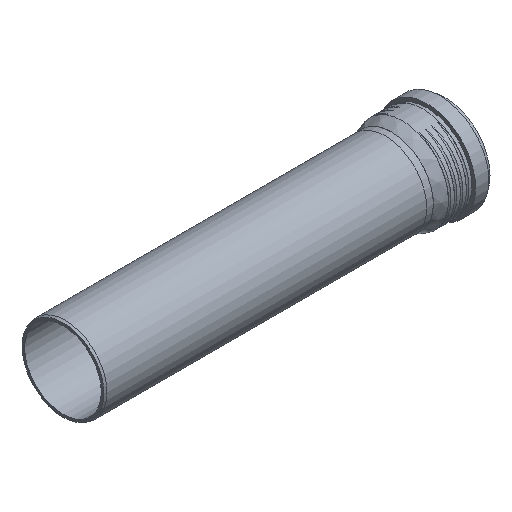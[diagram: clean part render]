
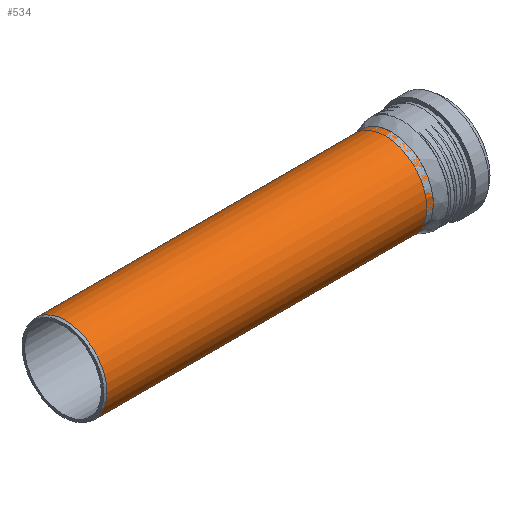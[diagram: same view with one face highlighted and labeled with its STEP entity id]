
A CAD part, isometric view. The second image highlights one B-rep face of the part: STEP entity #534.
In plain terms, the highlighted cylindrical face has radius 62.6 mm (diameter 125.2 mm), a full revolution.
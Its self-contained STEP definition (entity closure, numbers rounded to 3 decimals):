
#66=CYLINDRICAL_SURFACE('',#580,62.6);
#87=FACE_BOUND('',#158,.T.);
#122=FACE_OUTER_BOUND('',#157,.T.);
#157=EDGE_LOOP('',(#370));
#158=EDGE_LOOP('',(#371));
#222=CIRCLE('',#576,62.6);
#225=CIRCLE('',#581,62.6);
#249=VERTEX_POINT('',#771);
#252=VERTEX_POINT('',#779);
#304=EDGE_CURVE('',#249,#249,#222,.T.);
#307=EDGE_CURVE('',#252,#252,#225,.T.);
#370=ORIENTED_EDGE('',*,*,#307,.F.);
#371=ORIENTED_EDGE('',*,*,#304,.F.);
#534=ADVANCED_FACE('',(#122,#87),#66,.T.);
#576=AXIS2_PLACEMENT_3D('',#772,#643,#644);
#580=AXIS2_PLACEMENT_3D('',#778,#651,#652);
#581=AXIS2_PLACEMENT_3D('',#780,#653,#654);
#643=DIRECTION('center_axis',(-1.,0.,0.));
#644=DIRECTION('ref_axis',(0.,1.,0.));
#651=DIRECTION('center_axis',(1.,0.,0.));
#652=DIRECTION('ref_axis',(0.,1.,0.));
#653=DIRECTION('center_axis',(1.,0.,0.));
#654=DIRECTION('ref_axis',(0.,1.,0.));
#771=CARTESIAN_POINT('',(-243.4,-62.6,0.));
#772=CARTESIAN_POINT('Origin',(-243.4,0.,0.));
#778=CARTESIAN_POINT('Origin',(0.,0.,
0.));
#779=CARTESIAN_POINT('',(246.9,-62.6,0.));
#780=CARTESIAN_POINT('Origin',(246.9,0.,0.));
